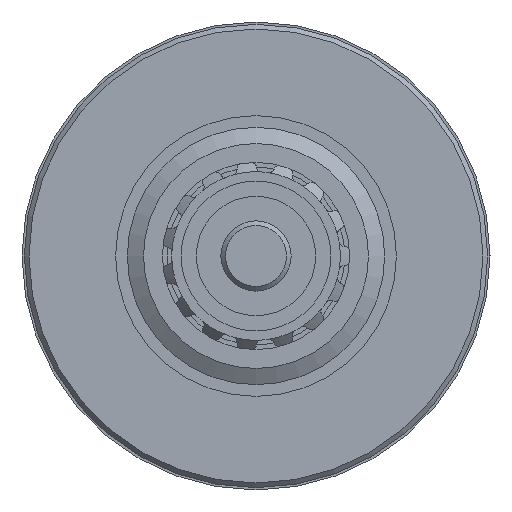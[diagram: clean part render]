
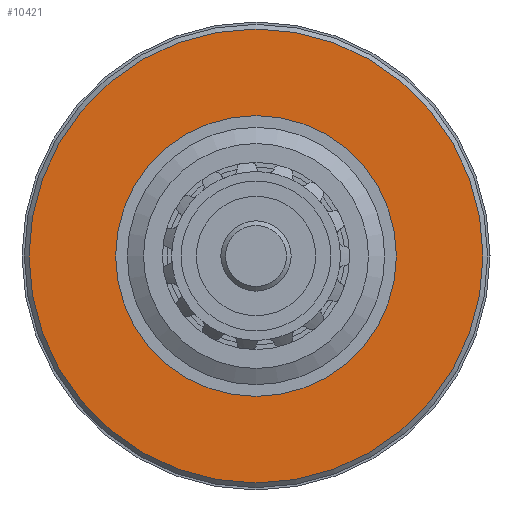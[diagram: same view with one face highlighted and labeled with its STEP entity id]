
A CAD part, left-side view. The second image highlights one B-rep face of the part: STEP entity #10421.
In plain terms, the highlighted planar face has unit normal (-1, 0, 0).
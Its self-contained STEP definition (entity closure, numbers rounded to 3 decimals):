
#347=FACE_BOUND('',#1755,.T.);
#597=PLANE('',#11470);
#1153=FACE_OUTER_BOUND('',#1754,.T.);
#1754=EDGE_LOOP('',(#9032));
#1755=EDGE_LOOP('',(#9033));
#3763=CIRCLE('',#11446,3.);
#3774=CIRCLE('',#11465,4.85);
#4697=VERTEX_POINT('',#19108);
#4708=VERTEX_POINT('',#19146);
#6132=EDGE_CURVE('',#4697,#4697,#3763,.T.);
#6152=EDGE_CURVE('',#4708,#4708,#3774,.T.);
#9032=ORIENTED_EDGE('',*,*,#6152,.T.);
#9033=ORIENTED_EDGE('',*,*,#6132,.T.);
#10421=ADVANCED_FACE('',(#1153,#347),#597,.T.);
#11446=AXIS2_PLACEMENT_3D('',#19109,#14208,#14209);
#11465=AXIS2_PLACEMENT_3D('',#19148,#14255,#14256);
#11470=AXIS2_PLACEMENT_3D('',#19155,#14266,#14267);
#14208=DIRECTION('center_axis',(1.,0.,0.));
#14209=DIRECTION('ref_axis',(0.,0.,1.));
#14255=DIRECTION('center_axis',(-1.,0.,0.));
#14256=DIRECTION('ref_axis',(0.,0.,1.));
#14266=DIRECTION('center_axis',(-1.,0.,0.));
#14267=DIRECTION('ref_axis',(0.,0.,-1.));
#19108=CARTESIAN_POINT('',(0.,0.,-3.));
#19109=CARTESIAN_POINT('Origin',(0.,0.,0.));
#19146=CARTESIAN_POINT('',(0.,0.,-4.85));
#19148=CARTESIAN_POINT('Origin',(0.,0.,0.));
#19155=CARTESIAN_POINT('Origin',(0.,0.,3.975));
